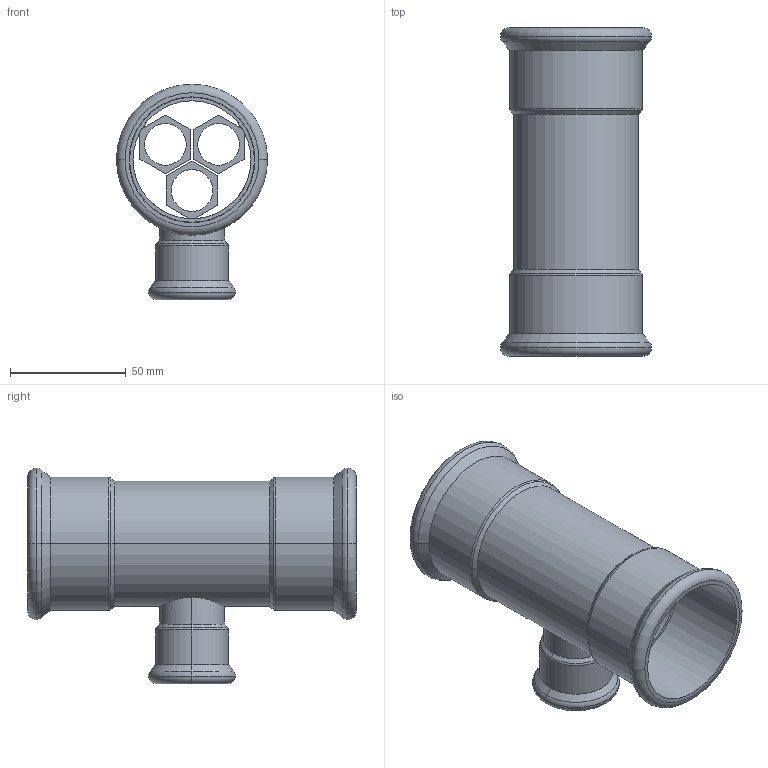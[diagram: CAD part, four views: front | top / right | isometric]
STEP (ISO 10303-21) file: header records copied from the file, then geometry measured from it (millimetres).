
FILE_DESCRIPTION(('OneSpaceDesigner STEP Export'),'2;1');
FILE_NAME('R2715 54x28x54.stp','2010-06-10T 9:09:03',(''),(''),'OneSpace Designer STEP processor for AP214 (Solid Model)','OneSpace Modeling 15.00A 14-Mar-2007 (C) CoCreate Software GmbH','');
FILE_SCHEMA(('AUTOMOTIVE_DESIGN { 1 0 10303 214 1 1 1 1 }'));
Length unit declared in the file: millimetre
Products named in the file (2): R2715_54x28x54
Assembly tree (1 placements, depth 2):
  R2715_54x28x54
    R2715_54x28x54
Bounding box: 65.3 x 142 x 93.15 mm (x, y, z)
Volume: 55848.4 mm3; surface area: 63040.4 mm2
Topology: 1 solids, 1 shells, 174 faces, 431 edges, 276 vertices
Faces by surface type: plane 90, cylinder 54, torus 18, cone 12
Entity records: 5783 total; most frequent: CARTESIAN_POINT 1938, ORIENTED_EDGE 862, DIRECTION 683, EDGE_CURVE 431, VERTEX_POINT 276, VECTOR 263, LINE 263, EDGE_LOOP 211
